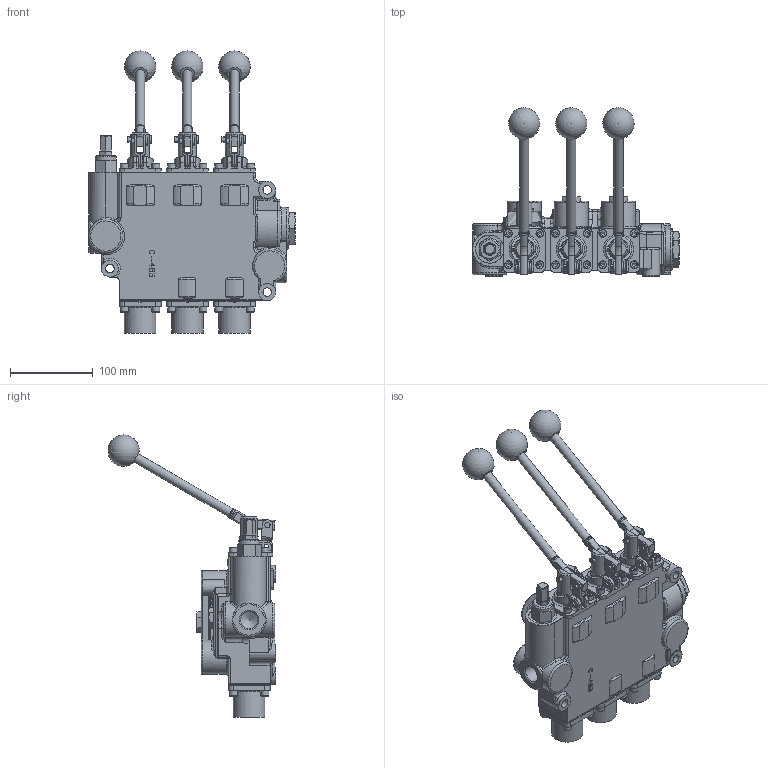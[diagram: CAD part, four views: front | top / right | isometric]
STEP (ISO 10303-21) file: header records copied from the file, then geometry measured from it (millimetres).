
FILE_DESCRIPTION((''),'2;1');
FILE_NAME('C:\Vault\Workspace\z_ShellModels\RD5000\RD532CCCAAA5A4B1_Shell.stp','2012-03-19T09:16:43',('PetersW'),(''),'Autodesk Inventor 2012','Autodesk Inventor 2012','');
FILE_SCHEMA(('AUTOMOTIVE_DESIGN { 1 0 10303 214 1 1 1 1 }'));
Length unit declared in the file: inch
Products named in the file (1): Part2
Bounding box: 250.09 x 203.39 x 341.71 mm (x, y, z)
Volume: 2342618.9 mm3; surface area: 313823.5 mm2
Topology: 64 solids, 68 shells, 2266 faces, 5755 edges, 3660 vertices
Faces by surface type: plane 1231, cylinder 500, cone 211, bspline 174, torus 137, sphere 13
Full cylindrical faces by diameter (mm): 2.388 x6, 4.75 x1, 4.813 x6, 4.978 x24, 5.017 x6, 6.248 x6, 6.325 x6, 6.35 x30, 6.375 x6, 6.731 x36, 8.382 x2, 9.398 x3, 9.525 x33, 10.312 x3, 11.113 x3, 12.446 x3, 12.7 x5, 16.688 x3, 17.501 x6, 18.237 x6, 19.05 x3, 20.625 x2, 20.777 x1, 22.225 x3, 23.393 x1, 23.523 x3, 25.4 x8, 30.175 x3, 30.48 x1, 31.267 x1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
Entity records: 79622 total; most frequent: CARTESIAN_POINT 27028, ORIENTED_EDGE 10190, DIRECTION 9941, EDGE_CURVE 5095, AXIS2_PLACEMENT_3D 3539, VERTEX_POINT 3434, VECTOR 2863, LINE 2863
